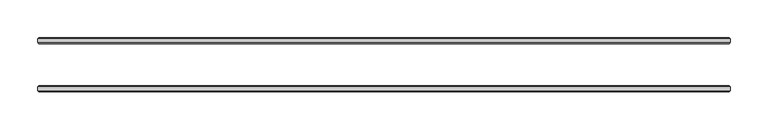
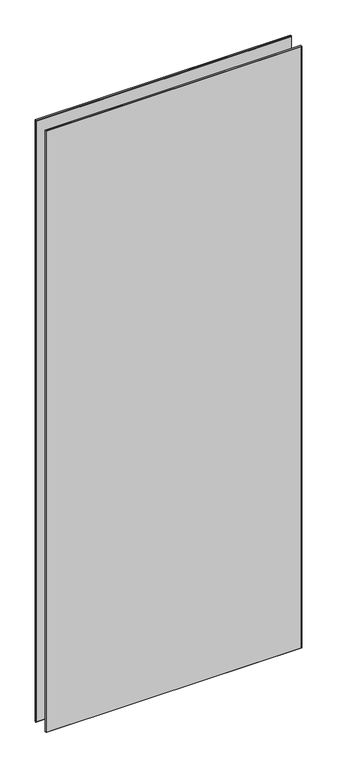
"""IFC4 building model written with IfcOpenShell, lengths in millimetres: plate geometry, 3-AMG-2-Панель двойной витраж 8, 10 : Смещение 32 Толщина 8mm."""

from ifc_helpers import new_model, si_unit, origin, place, context, project, spatial, faceted_brep, source, transform, mapped, element, save


def plate_50ec1b37(model_context):
    return source(origin(), model_context, "Body", "Brep", [
        faceted_brep([(463.6817324, -34.4961653, 2287.9376562), (463.6817324, -29.5038347, 2287.9376562), (-458.6817324, -29.5038347, 2287.9376562), (-458.6817324, -34.4961653, 2287.9376562), (463.6817324, -29.5038347, -7.0), (463.6817324, -34.4961653, -7.0), (-458.6817324, -34.4961653, -7.0), (-458.6817324, -29.5038347, -7.0), (-457.1778977, -28.0, 2286.4338215), (462.1778977, -28.0, 2286.4338215), (462.1778977, -28.0, -5.5039422), (-457.1778977, -28.0, -5.5039422), (462.1778977, -36.0, 2286.4338215), (-457.1778977, -36.0, 2286.4338215), (-457.1778977, -36.0, -5.4961653), (462.1778977, -36.0, -5.4961653)], [[[0, 1, 2, 3]], [[4, 5, 6, 7]], [[8, 9, 10, 11]], [[3, 2, 7, 6]], [[12, 13, 14, 15]], [[1, 0, 5, 4]], [[1, 4, 10, 9]], [[5, 0, 12, 15]], [[0, 3, 13, 12]], [[2, 1, 9, 8]], [[7, 2, 8, 11]], [[3, 6, 14, 13]], [[6, 5, 15, 14]], [[4, 7, 11, 10]]]),
        faceted_brep([(463.6817324, 29.5038347, 2287.9376562), (463.6817324, 34.4961653, 2287.9376562), (-458.6817324, 34.4961653, 2287.9376562), (-458.6817324, 29.5038347, 2287.9376562), (463.6817324, 34.4961653, -7.0), (463.6817324, 29.5038347, -7.0), (-458.6817324, 29.5038347, -7.0), (-458.6817324, 34.4961653, -7.0), (-457.1778977, 36.0, 2286.4338215), (462.1778977, 36.0, 2286.4338215), (462.1778977, 36.0, -5.5039422), (-457.1778977, 36.0, -5.5039422), (462.1778977, 28.0, 2286.4338215), (-457.1778977, 28.0, 2286.4338215), (-457.1778977, 28.0, -5.4961653), (462.1778977, 28.0, -5.4961653)], [[[0, 1, 2, 3]], [[4, 5, 6, 7]], [[8, 9, 10, 11]], [[3, 2, 7, 6]], [[12, 13, 14, 15]], [[1, 0, 5, 4]], [[1, 4, 10, 9]], [[5, 0, 12, 15]], [[7, 2, 8, 11]], [[3, 6, 14, 13]], [[0, 3, 13, 12]], [[2, 1, 9, 8]], [[6, 5, 15, 14]], [[4, 7, 11, 10]]]),
    ])


if __name__ == "__main__":
    model = new_model("IFC4")
    model_context = context("Model", 3, world=origin())
    ifc_project = project(units=[si_unit("LENGTHUNIT", "METRE", prefix="MILLI")], contexts=[model_context])
    site = spatial("IfcSite", under=ifc_project)
    building = spatial("IfcBuilding", under=site)
    placement = place(None, origin())
    plate_shape = plate_50ec1b37(model_context)
    element("IfcPlate", 1, ObjectType="3-AMG-2-Панель двойной витраж 8, 10 : Смещение 32 Толщина 8mm", at=placement, inside=building, context=model_context, shape_type="MappedRepresentation", body=[
        mapped(plate_shape, transform((0.0, 0.0, 0.0), x_axis=(1.0, 0.0, 0.0), y_axis=(0.0, 1.0, 0.0), z_axis=(0.0, 0.0, 1.0))),
    ])
    save(model, "model.ifc")
